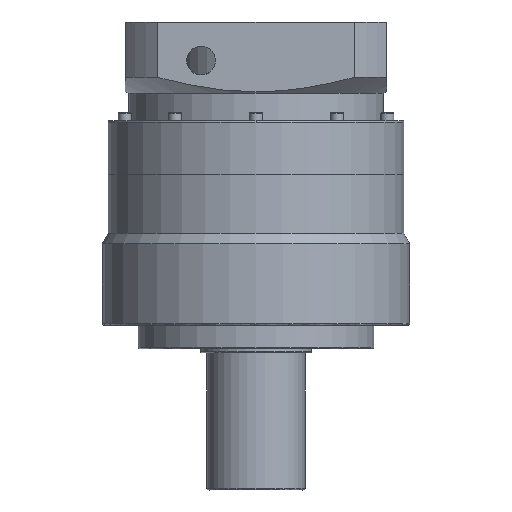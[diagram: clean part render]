
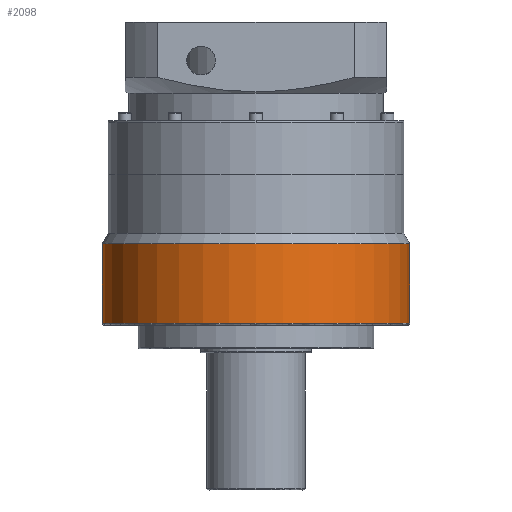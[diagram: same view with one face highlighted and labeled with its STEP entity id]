
A CAD part, front view. The second image highlights one B-rep face of the part: STEP entity #2098.
In plain terms, the highlighted cylindrical face has radius 117.5 mm (diameter 235 mm), a partial arc.
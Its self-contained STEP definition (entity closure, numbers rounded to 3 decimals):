
#466 = VERTEX_POINT ( 'NONE', #9463 ) ;
#2098 = ADVANCED_FACE ( 'NONE', ( #2505 ), #19287, .T. ) ;
#2505 = FACE_OUTER_BOUND ( 'NONE', #34440, .T. ) ;
#2669 = DIRECTION ( 'NONE',  ( 0., 0., 1. ) ) ;
#3011 = DIRECTION ( 'NONE',  ( 0., 0., 1. ) ) ;
#5433 = VECTOR ( 'NONE', #8017, 1000. ) ;
#7919 = EDGE_CURVE ( 'NONE', #42448, #26836, #22198, .T. ) ;
#8017 = DIRECTION ( 'NONE',  ( 0., 0., -1. ) ) ;
#9463 = CARTESIAN_POINT ( 'NONE',  ( 117.5, 0., 19.5 ) ) ;
#10703 = CARTESIAN_POINT ( 'NONE',  ( -117.5, 0., 19.5 ) ) ;
#12433 = VECTOR ( 'NONE', #30127, 1000. ) ;
#13706 = AXIS2_PLACEMENT_3D ( 'NONE', #23158, #3011, #26592 ) ;
#13730 = ORIENTED_EDGE ( 'NONE', *, *, #42048, .T. ) ;
#15250 = ORIENTED_EDGE ( 'NONE', *, *, #15350, .T. ) ;
#15350 = EDGE_CURVE ( 'NONE', #18063, #466, #28334, .T. ) ;
#16620 = LINE ( 'NONE', #22853, #12433 ) ;
#18063 = VERTEX_POINT ( 'NONE', #10703 ) ;
#19287 = CYLINDRICAL_SURFACE ( 'NONE', #27328, 117.5 ) ;
#19869 = EDGE_CURVE ( 'NONE', #26836, #466, #40169, .T. ) ;
#20010 = AXIS2_PLACEMENT_3D ( 'NONE', #22832, #2669, #26282 ) ;
#22198 = CIRCLE ( 'NONE', #13706, 117.5 ) ;
#22832 = CARTESIAN_POINT ( 'NONE',  ( 0., 0., 19.5 ) ) ;
#22853 = CARTESIAN_POINT ( 'NONE',  ( -117.5, 0., 60. ) ) ;
#23158 = CARTESIAN_POINT ( 'NONE',  ( 0., 0., 80.436 ) ) ;
#26282 = DIRECTION ( 'NONE',  ( -1., 0., 0. ) ) ;
#26592 = DIRECTION ( 'NONE',  ( -1., 0., 0. ) ) ;
#26836 = VERTEX_POINT ( 'NONE', #27546 ) ;
#27328 = AXIS2_PLACEMENT_3D ( 'NONE', #36361, #29375, #33001 ) ;
#27546 = CARTESIAN_POINT ( 'NONE',  ( 117.5, 0., 80.436 ) ) ;
#28334 = CIRCLE ( 'NONE', #20010, 117.5 ) ;
#29375 = DIRECTION ( 'NONE',  ( 0., 0., -1. ) ) ;
#30127 = DIRECTION ( 'NONE',  ( 0., 0., -1. ) ) ;
#31558 = CARTESIAN_POINT ( 'NONE',  ( 117.5, 0., 60. ) ) ;
#32841 = ORIENTED_EDGE ( 'NONE', *, *, #19869, .F. ) ;
#33001 = DIRECTION ( 'NONE',  ( -1., 0., 0. ) ) ;
#34440 = EDGE_LOOP ( 'NONE', ( #32841, #36709, #13730, #15250 ) ) ;
#36361 = CARTESIAN_POINT ( 'NONE',  ( 0., 0., 60. ) ) ;
#36709 = ORIENTED_EDGE ( 'NONE', *, *, #7919, .F. ) ;
#38697 = CARTESIAN_POINT ( 'NONE',  ( -117.5, 0., 80.436 ) ) ;
#40169 = LINE ( 'NONE', #31558, #5433 ) ;
#42048 = EDGE_CURVE ( 'NONE', #42448, #18063, #16620, .T. ) ;
#42448 = VERTEX_POINT ( 'NONE', #38697 ) ;
